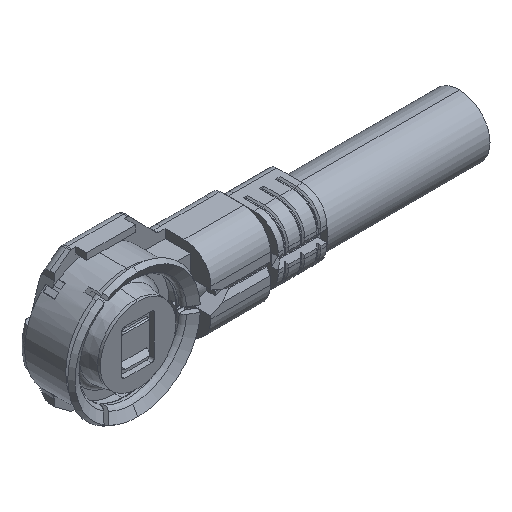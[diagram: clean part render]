
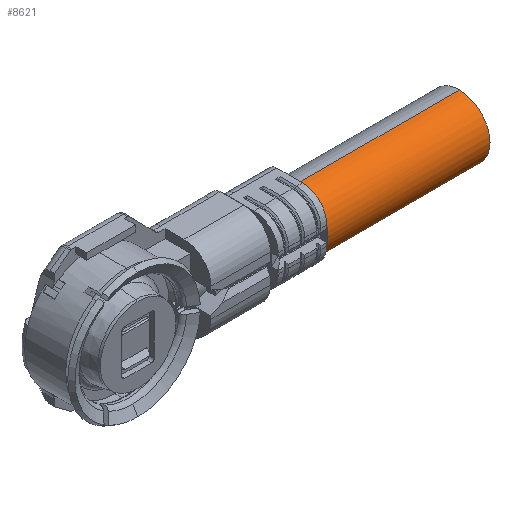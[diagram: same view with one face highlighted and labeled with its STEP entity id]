
A CAD part, isometric view. The second image highlights one B-rep face of the part: STEP entity #8621.
In plain terms, the highlighted cylindrical face has radius 0.565 mm (diameter 1.13 mm), a partial arc.
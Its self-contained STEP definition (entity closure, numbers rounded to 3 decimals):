
#180 = CARTESIAN_POINT ( 'NONE',  ( 3.5, 0.747, 0. ) ) ;
#235 = DIRECTION ( 'NONE',  ( 0., 0., -1. ) ) ;
#241 = EDGE_LOOP ( 'NONE', ( #11031, #4988, #2042, #7805, #6402, #10179 ) ) ;
#688 = LINE ( 'NONE', #1713, #7415 ) ;
#834 = DIRECTION ( 'NONE',  ( -1., 0., 0. ) ) ;
#1064 = DIRECTION ( 'NONE',  ( 0., 0., -1. ) ) ;
#1184 = EDGE_CURVE ( 'NONE', #3796, #10936, #6944, .T. ) ;
#1456 = DIRECTION ( 'NONE',  ( 1., 0., 0. ) ) ;
#1688 = CARTESIAN_POINT ( 'NONE',  ( 6.5, 0.747, -0.565 ) ) ;
#1713 = CARTESIAN_POINT ( 'NONE',  ( 8.5, 0.747, -0.565 ) ) ;
#1837 = CARTESIAN_POINT ( 'NONE',  ( 8.5, 0.747, 0. ) ) ;
#2042 = ORIENTED_EDGE ( 'NONE', *, *, #7010, .T. ) ;
#2652 = DIRECTION ( 'NONE',  ( 0., 0., 1. ) ) ;
#2659 = CARTESIAN_POINT ( 'NONE',  ( 8.5, 0.747, 0.565 ) ) ;
#3289 = CARTESIAN_POINT ( 'NONE',  ( 3.5, 0.205, 0.159 ) ) ;
#3321 = CARTESIAN_POINT ( 'NONE',  ( 6.5, 0.747, 0. ) ) ;
#3331 = DIRECTION ( 'NONE',  ( -1., 0., 0. ) ) ;
#3348 = DIRECTION ( 'NONE',  ( 0., 0., 1. ) ) ;
#3796 = VERTEX_POINT ( 'NONE', #1688 ) ;
#4062 = VERTEX_POINT ( 'NONE', #7439 ) ;
#4139 = CARTESIAN_POINT ( 'NONE',  ( 3.5, 0.205, -0.159 ) ) ;
#4183 = VECTOR ( 'NONE', #7885, 1000. ) ;
#4189 = CARTESIAN_POINT ( 'NONE',  ( 3.5, 0.747, 0.565 ) ) ;
#4579 = FACE_OUTER_BOUND ( 'NONE', #241, .T. ) ;
#4629 = AXIS2_PLACEMENT_3D ( 'NONE', #3321, #3331, #3348 ) ;
#4718 = VERTEX_POINT ( 'NONE', #4189 ) ;
#4734 = VERTEX_POINT ( 'NONE', #3289 ) ;
#4883 = EDGE_CURVE ( 'NONE', #4718, #4734, #9926, .T. ) ;
#4988 = ORIENTED_EDGE ( 'NONE', *, *, #1184, .T. ) ;
#5523 = DIRECTION ( 'NONE',  ( 1., 0., 0. ) ) ;
#5688 = EDGE_CURVE ( 'NONE', #6768, #4062, #7320, .T. ) ;
#6333 = DIRECTION ( 'NONE',  ( 1., 0., 0. ) ) ;
#6402 = ORIENTED_EDGE ( 'NONE', *, *, #6760, .T. ) ;
#6723 = CARTESIAN_POINT ( 'NONE',  ( 3.5, 0.747, 0. ) ) ;
#6760 = EDGE_CURVE ( 'NONE', #4734, #6768, #6901, .T. ) ;
#6768 = VERTEX_POINT ( 'NONE', #4139 ) ;
#6901 = CIRCLE ( 'NONE', #8452, 0.565 ) ;
#6944 = CIRCLE ( 'NONE', #4629, 0.565 ) ;
#7010 = EDGE_CURVE ( 'NONE', #10936, #4718, #11114, .T. ) ;
#7320 = CIRCLE ( 'NONE', #10150, 0.565 ) ;
#7339 = CARTESIAN_POINT ( 'NONE',  ( 6.5, 0.747, 0.565 ) ) ;
#7415 = VECTOR ( 'NONE', #834, 1000. ) ;
#7439 = CARTESIAN_POINT ( 'NONE',  ( 3.5, 0.747, -0.565 ) ) ;
#7580 = DIRECTION ( 'NONE',  ( 0., 0., -1. ) ) ;
#7805 = ORIENTED_EDGE ( 'NONE', *, *, #4883, .T. ) ;
#7885 = DIRECTION ( 'NONE',  ( -1., 0., 0. ) ) ;
#7930 = AXIS2_PLACEMENT_3D ( 'NONE', #180, #6333, #1064 ) ;
#7960 = DIRECTION ( 'NONE',  ( -1., 0., 0. ) ) ;
#8452 = AXIS2_PLACEMENT_3D ( 'NONE', #6723, #1456, #7580 ) ;
#8540 = EDGE_CURVE ( 'NONE', #3796, #4062, #688, .T. ) ;
#8621 = ADVANCED_FACE ( 'NONE', ( #4579 ), #8954, .T. ) ;
#8954 = CYLINDRICAL_SURFACE ( 'NONE', #9447, 0.565 ) ;
#9447 = AXIS2_PLACEMENT_3D ( 'NONE', #1837, #7960, #2652 ) ;
#9926 = CIRCLE ( 'NONE', #7930, 0.565 ) ;
#10150 = AXIS2_PLACEMENT_3D ( 'NONE', #10719, #5523, #235 ) ;
#10179 = ORIENTED_EDGE ( 'NONE', *, *, #5688, .T. ) ;
#10719 = CARTESIAN_POINT ( 'NONE',  ( 3.5, 0.747, 0. ) ) ;
#10936 = VERTEX_POINT ( 'NONE', #7339 ) ;
#11031 = ORIENTED_EDGE ( 'NONE', *, *, #8540, .F. ) ;
#11114 = LINE ( 'NONE', #2659, #4183 ) ;
